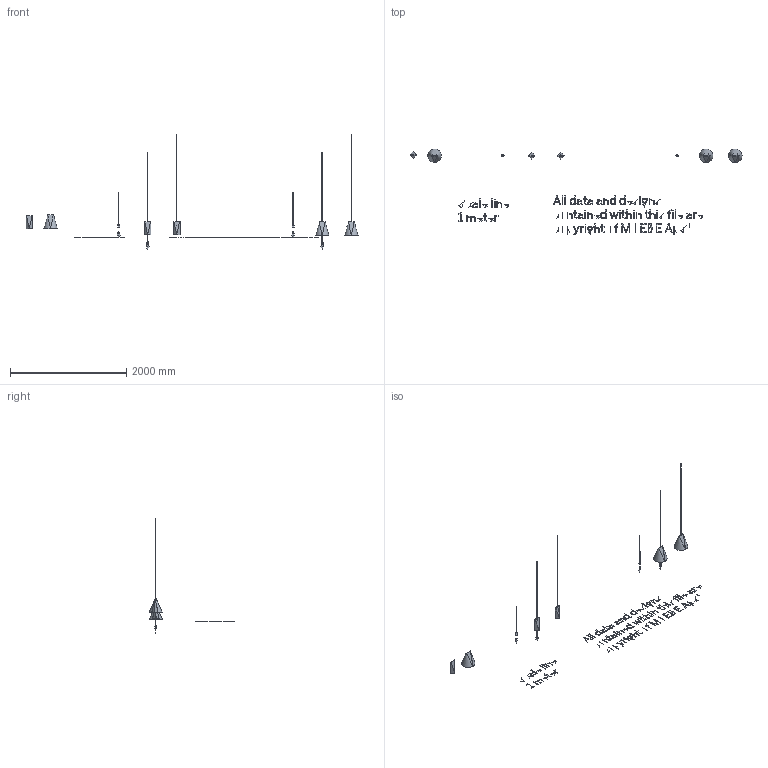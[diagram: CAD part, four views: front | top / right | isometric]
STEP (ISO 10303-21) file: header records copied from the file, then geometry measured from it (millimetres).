
FILE_DESCRIPTION(/* description */ (''),/* implementation_level */ '2;1');
FILE_NAME(/* name */ 'CERAMIC-PENDENT-LAMPS_MOEBE',/* time_stamp */ '2022-09-14T09:32:09+02:00',/* author */ (''),/* organization */ (''),/* preprocessor_version */ 'ST-DEVELOPER v16.5',/* originating_system */ '',/* authorisation */ '');
FILE_SCHEMA (('AUTOMOTIVE_DESIGN'));
Length unit declared in the file: millimetre
Products named in the file (1): Document
Bounding box: 5707.47 x 1477.99 x 1974.6 mm (x, y, z)
Volume: 2697731 mm3; surface area: 2053264.8 mm2
Topology: 128 solids, 128 shells, 1589 faces, 3819 edges, 2554 vertices
Faces by surface type: plane 844, bspline 745
Entity records: 57673 total; most frequent: CARTESIAN_POINT 32506, ORIENTED_EDGE 7608, EDGE_CURVE 3804, VERTEX_POINT 2552, B_SPLINE_CURVE_WITH_KNOTS 2524, EDGE_LOOP 1760, ADVANCED_FACE 1589, FACE_OUTER_BOUND 1589
